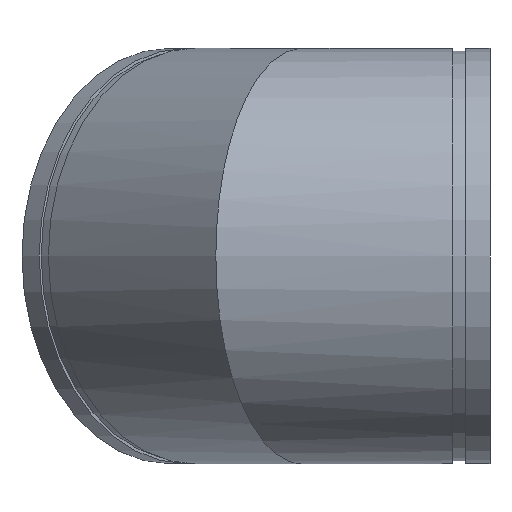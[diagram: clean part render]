
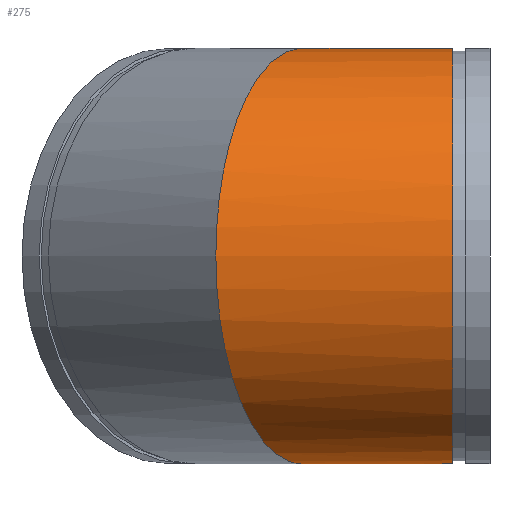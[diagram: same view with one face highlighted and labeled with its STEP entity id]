
A CAD part, left-side view. The second image highlights one B-rep face of the part: STEP entity #275.
In plain terms, the highlighted cylindrical face has radius 203.2 mm (diameter 406.4 mm), a full revolution.
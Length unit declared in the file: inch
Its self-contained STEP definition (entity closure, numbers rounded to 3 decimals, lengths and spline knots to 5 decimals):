
#48=ELLIPSE('',#329,8.65914,8.);
#49=ELLIPSE('',#330,8.65914,8.);
#50=ELLIPSE('',#331,8.65914,8.);
#73=FACE_OUTER_BOUND('',#91,.T.);
#91=EDGE_LOOP('',(#225,#226,#227,#228,#229,#230));
#103=LINE('',#513,#111);
#111=VECTOR('',#416,8.);
#117=CIRCLE('',#305,8.);
#133=VERTEX_POINT('',#468);
#148=VERTEX_POINT('',#512);
#149=VERTEX_POINT('',#514);
#150=VERTEX_POINT('',#516);
#156=EDGE_CURVE('',#133,#133,#117,.T.);
#176=EDGE_CURVE('',#133,#148,#103,.T.);
#177=EDGE_CURVE('',#148,#149,#48,.T.);
#178=EDGE_CURVE('',#150,#149,#49,.T.);
#179=EDGE_CURVE('',#150,#148,#50,.T.);
#225=ORIENTED_EDGE('',*,*,#156,.T.);
#226=ORIENTED_EDGE('',*,*,#176,.T.);
#227=ORIENTED_EDGE('',*,*,#177,.T.);
#228=ORIENTED_EDGE('',*,*,#178,.F.);
#229=ORIENTED_EDGE('',*,*,#179,.T.);
#230=ORIENTED_EDGE('',*,*,#176,.F.);
#247=CYLINDRICAL_SURFACE('',#328,8.);
#275=ADVANCED_FACE('',(#73),#247,.T.);
#305=AXIS2_PLACEMENT_3D('',#469,#363,#364);
#328=AXIS2_PLACEMENT_3D('',#511,#414,#415);
#329=AXIS2_PLACEMENT_3D('',#515,#417,#418);
#330=AXIS2_PLACEMENT_3D('',#517,#419,#420);
#331=AXIS2_PLACEMENT_3D('',#518,#421,#422);
#363=DIRECTION('center_axis',(0.,1.,0.));
#364=DIRECTION('ref_axis',(1.,0.,0.));
#414=DIRECTION('center_axis',(0.,-1.,0.));
#415=DIRECTION('ref_axis',(1.,0.,0.));
#416=DIRECTION('',(0.,1.,0.));
#417=DIRECTION('center_axis',(-0.383,-0.924,0.));
#418=DIRECTION('ref_axis',(0.924,-0.383,0.));
#419=DIRECTION('center_axis',(0.383,0.924,0.));
#420=DIRECTION('ref_axis',(0.924,-0.383,0.));
#421=DIRECTION('center_axis',(-0.383,-0.924,0.));
#422=DIRECTION('ref_axis',(0.924,-0.383,0.));
#468=CARTESIAN_POINT('',(-8.,-5.812,0.));
#469=CARTESIAN_POINT('Origin',(0.,-5.812,0.));
#511=CARTESIAN_POINT('Origin',(0.,0.,0.));
#512=CARTESIAN_POINT('',(-8.,3.31371,0.));
#513=CARTESIAN_POINT('',(-8.,0.,0.));
#514=CARTESIAN_POINT('',(0.,0.,-8.));
#515=CARTESIAN_POINT('Origin',(0.,0.,
0.));
#516=CARTESIAN_POINT('',(0.,0.,8.));
#517=CARTESIAN_POINT('Origin',(0.,0.,0.));
#518=CARTESIAN_POINT('Origin',(0.,0.,
0.));
